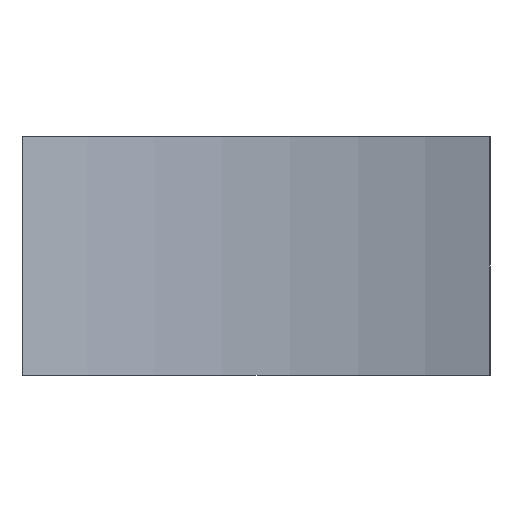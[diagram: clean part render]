
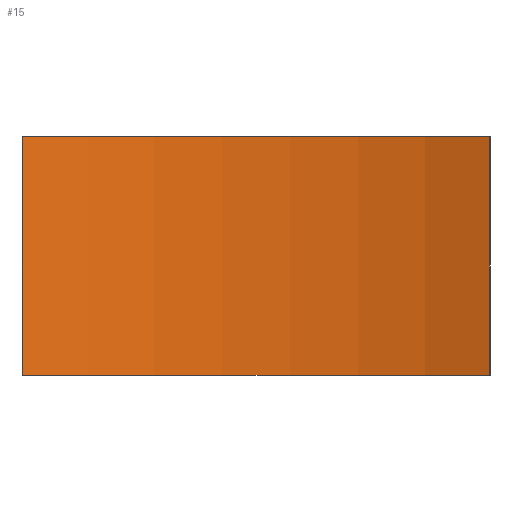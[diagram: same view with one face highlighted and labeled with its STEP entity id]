
A CAD part, top view. The second image highlights one B-rep face of the part: STEP entity #15.
In plain terms, the highlighted cylindrical face has radius 3175 mm (diameter 6350 mm), a partial arc.
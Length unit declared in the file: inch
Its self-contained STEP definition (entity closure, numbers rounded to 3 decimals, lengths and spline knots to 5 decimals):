
#15=ADVANCED_FACE('',(#21),#92,.F.);
#21=FACE_OUTER_BOUND('',#27,.T.);
#27=EDGE_LOOP('',(#36,#37,#38,#39));
#36=ORIENTED_EDGE('',*,*,#59,.F.);
#37=ORIENTED_EDGE('',*,*,#61,.F.);
#38=ORIENTED_EDGE('',*,*,#62,.F.);
#39=ORIENTED_EDGE('',*,*,#60,.F.);
#59=EDGE_CURVE('',#87,#84,#79,.T.);
#60=EDGE_CURVE('',#84,#88,#68,.T.);
#61=EDGE_CURVE('',#89,#87,#69,.T.);
#62=EDGE_CURVE('',#88,#89,#80,.T.);
#68=TRIMMED_CURVE($,#72,(#242),(#243),.T.,.CARTESIAN.);
#69=TRIMMED_CURVE($,#73,(#245),(#246),.T.,.CARTESIAN.);
#72=CIRCLE('',#195,125.);
#73=CIRCLE('',#196,125.);
#79=B_SPLINE_CURVE_WITH_KNOTS('',1,(#239,#240),.UNSPECIFIED.,.F.,.F.,(2,
2),(0.,48.),.UNSPECIFIED.);
#80=B_SPLINE_CURVE_WITH_KNOTS('',1,(#247,#248),.UNSPECIFIED.,.F.,.F.,(2,
2),(-48.,0.),.UNSPECIFIED.);
#84=VERTEX_POINT('',#225);
#87=VERTEX_POINT('',#228);
#88=VERTEX_POINT('',#229);
#89=VERTEX_POINT('',#230);
#92=CYLINDRICAL_SURFACE('',#190,125.);
#190=AXIS2_PLACEMENT_3D('',#220,#203,$);
#195=AXIS2_PLACEMENT_3D($,#241,#208,#209);
#196=AXIS2_PLACEMENT_3D($,#244,#210,#211);
#203=DIRECTION('',(0.,-1.,0.));
#208=DIRECTION('',(0.,-1.,0.));
#209=DIRECTION('',(-0.375,0.,-0.927));
#210=DIRECTION('',(0.,1.,0.));
#211=DIRECTION('',(0.375,0.,-0.927));
#220=CARTESIAN_POINT('',(0.,-24.,125.));
#225=CARTESIAN_POINT('',(-46.82906,0.,9.10333));
#228=CARTESIAN_POINT('',(-46.82906,-48.,9.10333));
#229=CARTESIAN_POINT('',(46.82906,0.,9.10333));
#230=CARTESIAN_POINT('',(46.82906,-48.,9.10333));
#239=CARTESIAN_POINT('',(-46.82906,-48.,9.10333));
#240=CARTESIAN_POINT('',(-46.82906,0.,9.10333));
#241=CARTESIAN_POINT('',(0.,0.,125.));
#242=CARTESIAN_POINT('',(-46.82906,0.,9.10333));
#243=CARTESIAN_POINT('',(46.82906,0.,9.10333));
#244=CARTESIAN_POINT('',(0.,-48.,125.));
#245=CARTESIAN_POINT('',(46.82906,-48.,9.10333));
#246=CARTESIAN_POINT('',(-46.82906,-48.,9.10333));
#247=CARTESIAN_POINT('',(46.82906,0.,9.10333));
#248=CARTESIAN_POINT('',(46.82906,-48.,9.10333));
